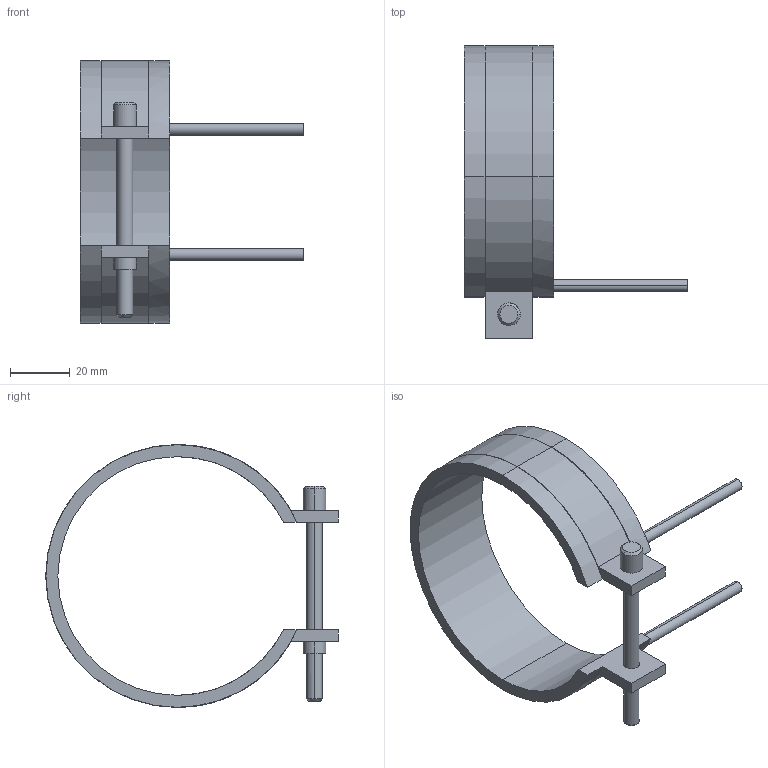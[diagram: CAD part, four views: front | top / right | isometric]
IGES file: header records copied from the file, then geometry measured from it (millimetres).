
Start section: START RECORD GO HERE.
Global section: file name: 14080030.igs; native system: DASSAULT SYSTEMES CATIA V5 R20 - www.3ds.com; preprocessor: CATIA Version 5 Release 20 ; author: Utente; organization: NB04-ASUS; date: 20210403.100556; units: millimetre
Bounding box: 75 x 98.1 x 88.2 mm (x, y, z)
Surface area: 19130 mm2 (no closed solid volume)
Topology: 0 solids, 0 shells, 45 faces, 232 edges, 232 vertices
Faces by surface type: revolution 28, plane 17
